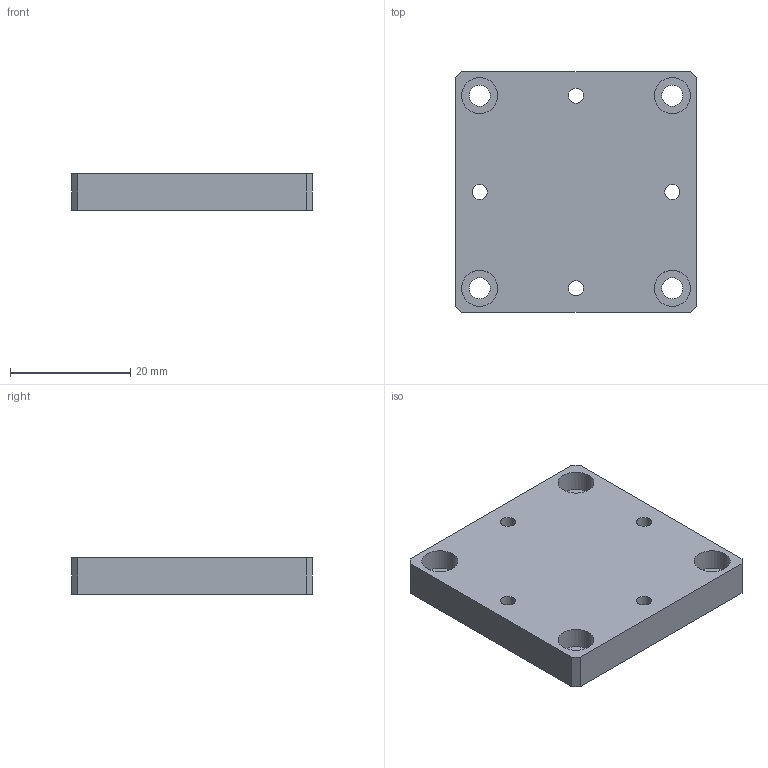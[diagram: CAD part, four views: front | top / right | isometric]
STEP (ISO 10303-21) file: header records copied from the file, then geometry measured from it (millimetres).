
FILE_DESCRIPTION( ( 'STEP AP203' ), '1' );
FILE_NAME( 'C:/3D-Trans/3D_A49-16+071218.stp', '2007-12-18T05:03:25', ( ' ' ), ( ' ' ), 'XStep 1.0', ' ', ' ' );
FILE_SCHEMA( ( 'CONFIG_CONTROL_DESIGN' ) );
Length unit declared in the file: millimetre
Products named in the file (1): 1
Bounding box: 40 x 40 x 6 mm (x, y, z)
Volume: 8978.1 mm3; surface area: 4588 mm2
Topology: 1 solids, 1 shells, 26 faces, 64 edges, 44 vertices
Faces by surface type: plane 14, cylinder 12
Full cylindrical faces by diameter (mm): 2.5 x4, 3.5 x4, 6 x4
Entity records: 764 total; most frequent: DIRECTION 126, CARTESIAN_POINT 115, ORIENTED_EDGE 96, EDGE_LOOP 58, AXIS2_PLACEMENT_3D 51, EDGE_CURVE 48, VERTEX_POINT 40, FACE_OUTER_BOUND 38
